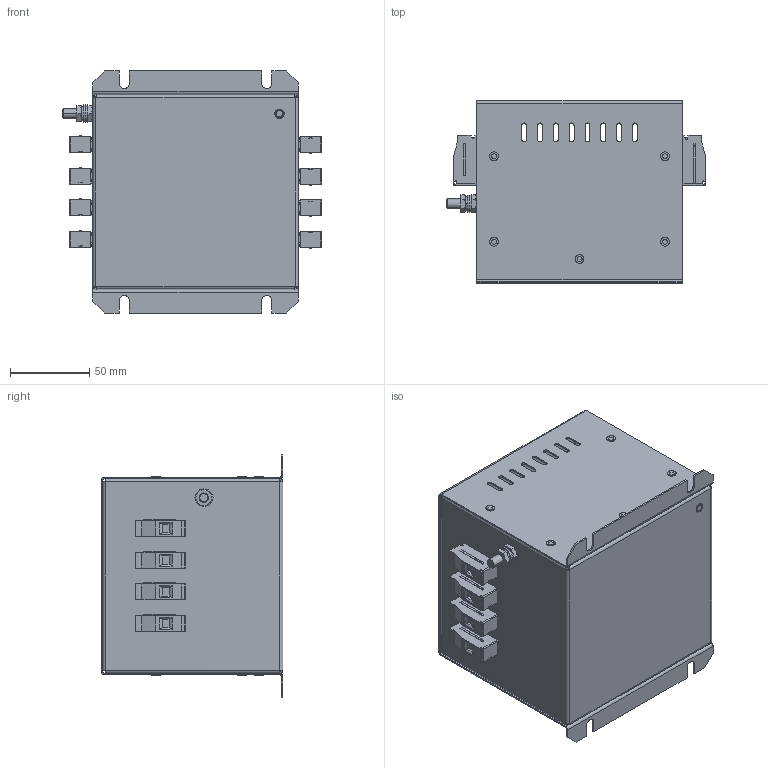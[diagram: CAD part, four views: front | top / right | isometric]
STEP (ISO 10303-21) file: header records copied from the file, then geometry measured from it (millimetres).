
FILE_DESCRIPTION (( 'STEP AP214' ), '1' );
FILE_NAME ('NF-4-25-GTR.STEP', '2026-09-15T10:48:05', ( '' ), ( '' ), 'SwSTEP 2.0', 'SolidWorks 2025', '' );
FILE_SCHEMA (( 'AUTOMOTIVE_DESIGN' ));
Length unit declared in the file: millimetre
Products named in the file (13): IFI 509 - 42; ANSI B18.2.4.5M - M6 x 1; MPT1010; AS 1237 - 6; 1000-280-36; AS 1968 - 1976 - 5; NF-4-25-GTR(2); 1000-436 Lid; ANSI B18.2.4.5M - M5 x 0.8; FH-M4-10 ZI; 1000-436(2)_WGK; NF-4-25-GTR; FH-M6-20 ZI
Assembly tree (32 placements, depth 4):
  NF-4-25-GTR
    NF-4-25-GTR(2)
      1000-436(2)_WGK
        1000-280-36
        1000-436 Lid
      MPT1010  x8
      FH-M4-10 ZI
      FH-M6-20 ZI
      ANSI B18.2.4.5M - M5 x 0.8
      ANSI B18.2.4.5M - M6 x 1  x3
      AS 1237 - 6  x2
      AS 1968 - 1976 - 5
      IFI 509 - 42  x11
Bounding box: 163.5 x 115 x 153 mm (x, y, z)
Volume: 106692.6 mm3; surface area: 274422.4 mm2
Topology: 22 solids, 342 shells, 5283 faces, 13096 edges, 8454 vertices
Faces by surface type: plane 4299, cylinder 647, cone 269, torus 38, bspline 30
Entity records: 36759 total; most frequent: CARTESIAN_POINT 8138, ORIENTED_EDGE 5964, DIRECTION 5492, EDGE_CURVE 2982, VERTEX_POINT 1908, AXIS2_PLACEMENT_3D 1884, LINE 1724, VECTOR 1724
